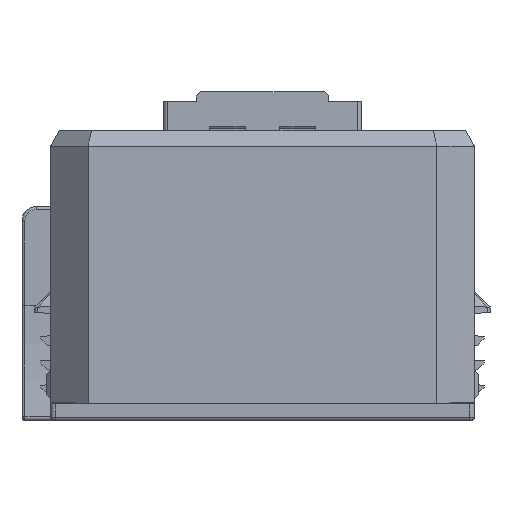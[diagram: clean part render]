
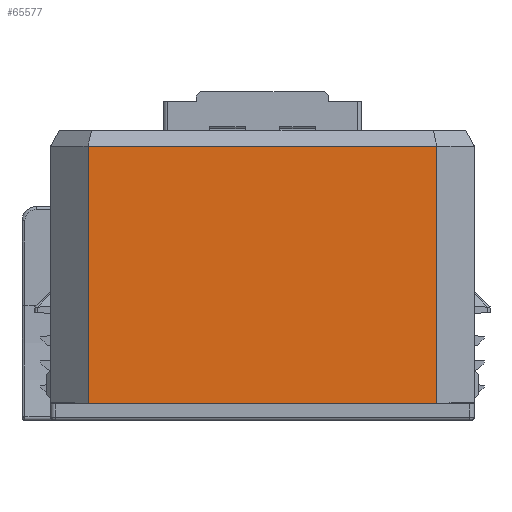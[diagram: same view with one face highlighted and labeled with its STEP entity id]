
A CAD part, front view. The second image highlights one B-rep face of the part: STEP entity #65577.
In plain terms, the highlighted planar face has unit normal (0, -1, 0).
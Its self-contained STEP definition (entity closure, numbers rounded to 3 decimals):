
#1541=DIRECTION('',(-1.,0.,0.));
#1542=VECTOR('',#1541,24.3);
#1543=CARTESIAN_POINT('',(12.15,-26.,1.195));
#1544=LINE('',#1543,#1542);
#2757=DIRECTION('',(0.,0.,-1.));
#2758=VECTOR('',#2757,17.905);
#2759=CARTESIAN_POINT('',(-12.15,-26.,19.1));
#2760=LINE('',#2759,#2758);
#19661=DIRECTION('',(0.,0.,-1.));
#19662=VECTOR('',#19661,17.905);
#19663=CARTESIAN_POINT('',(12.15,-26.,19.1));
#19664=LINE('',#19663,#19662);
#19665=DIRECTION('',(1.,0.,0.));
#19666=VECTOR('',#19665,24.3);
#19667=CARTESIAN_POINT('',(-12.15,-26.,19.1));
#19668=LINE('',#19667,#19666);
#21022=CARTESIAN_POINT('',(-12.15,-26.,19.1));
#21023=CARTESIAN_POINT('',(12.15,-26.,19.1));
#21024=VERTEX_POINT('',#21022);
#21025=VERTEX_POINT('',#21023);
#26352=CARTESIAN_POINT('',(12.15,-26.,1.195));
#26353=CARTESIAN_POINT('',(-12.15,-26.,1.195));
#26354=VERTEX_POINT('',#26352);
#26355=VERTEX_POINT('',#26353);
#65566=CARTESIAN_POINT('',(-14.75,-26.,0.));
#65567=DIRECTION('',(0.,-1.,0.));
#65568=DIRECTION('',(1.,0.,0.));
#65569=AXIS2_PLACEMENT_3D('',#65566,#65567,#65568);
#65570=PLANE('',#65569);
#65571=ORIENTED_EDGE('',*,*,#29525,.T.);
#65572=ORIENTED_EDGE('',*,*,#29556,.T.);
#65573=ORIENTED_EDGE('',*,*,#31819,.F.);
#65574=ORIENTED_EDGE('',*,*,#65551,.T.);
#65575=EDGE_LOOP('',(#65571,#65572,#65573,#65574));
#65576=FACE_OUTER_BOUND('',#65575,.F.);
#65577=ADVANCED_FACE('',(#65576),#65570,.T.);
#29525=EDGE_CURVE('',#21025,#26354,#19664,.T.);
#29556=EDGE_CURVE('',#26354,#26355,#1544,.T.);
#31819=EDGE_CURVE('',#21024,#26355,#2760,.T.);
#65551=EDGE_CURVE('',#21024,#21025,#19668,.T.);
